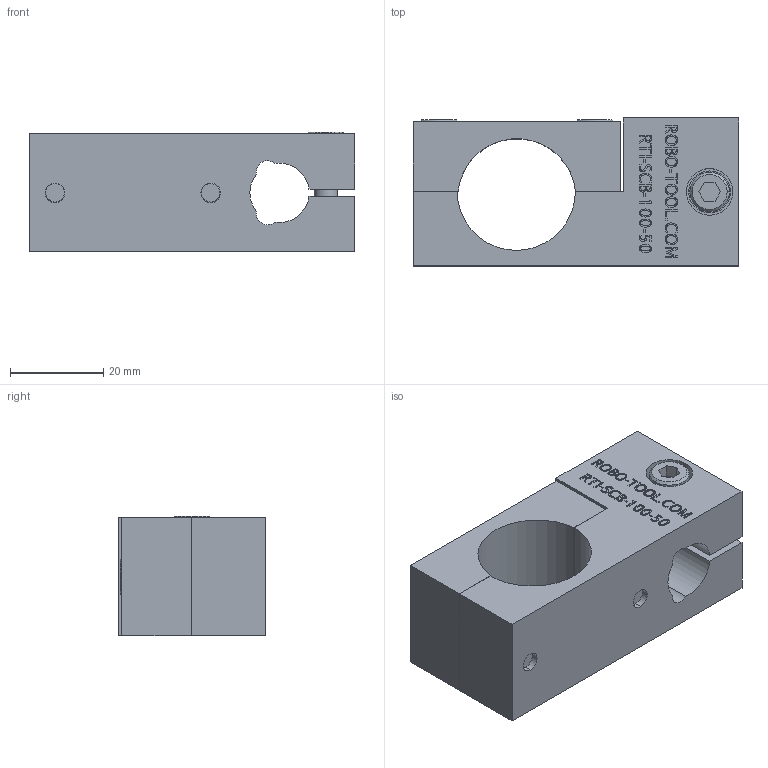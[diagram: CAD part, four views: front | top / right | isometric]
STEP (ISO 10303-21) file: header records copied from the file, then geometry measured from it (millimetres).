
FILE_DESCRIPTION (( 'STEP AP214' ), '1' );
FILE_NAME ('RTI-SCB-100-50.STEP', '2013-10-22T14:42:10', ( 'user' ), ( '' ), 'SwSTEP 2.0', 'SolidWorks 2009', '' );
FILE_SCHEMA (( 'AUTOMOTIVE_DESIGN' ));
Length unit declared in the file: inch
Products named in the file (6): RTI-SCB-100T; RTI-SCB-100-50; M5 S.H.C.S._M5x25mm; M5 S.H.C.S._M5x16mm; M5 WASHER
Assembly tree (8 placements, depth 2):
  RTI-SCB-100-50
    M5 S.H.C.S._M5x25mm  x2
    M5 WASHER  x3
    RTI-SCB-100-50
    M5 S.H.C.S._M5x16mm
    RTI-SCB-100T
Bounding box: 69.85 x 31.75 x 25.75 mm (x, y, z)
Volume: 38057.4 mm3; surface area: 17390.8 mm2
Topology: 8 solids, 8 shells, 673 faces, 1695 edges, 1126 vertices
Faces by surface type: plane 373, bspline 237, cylinder 51, cone 12
Entity records: 42195 total; most frequent: CARTESIAN_POINT 21034, ORIENTED_EDGE 3266, DIRECTION 2079, EDGE_CURVE 1633, VERTEX_POINT 1086, LINE 1073, VECTOR 1073, EDGE_LOOP 743
